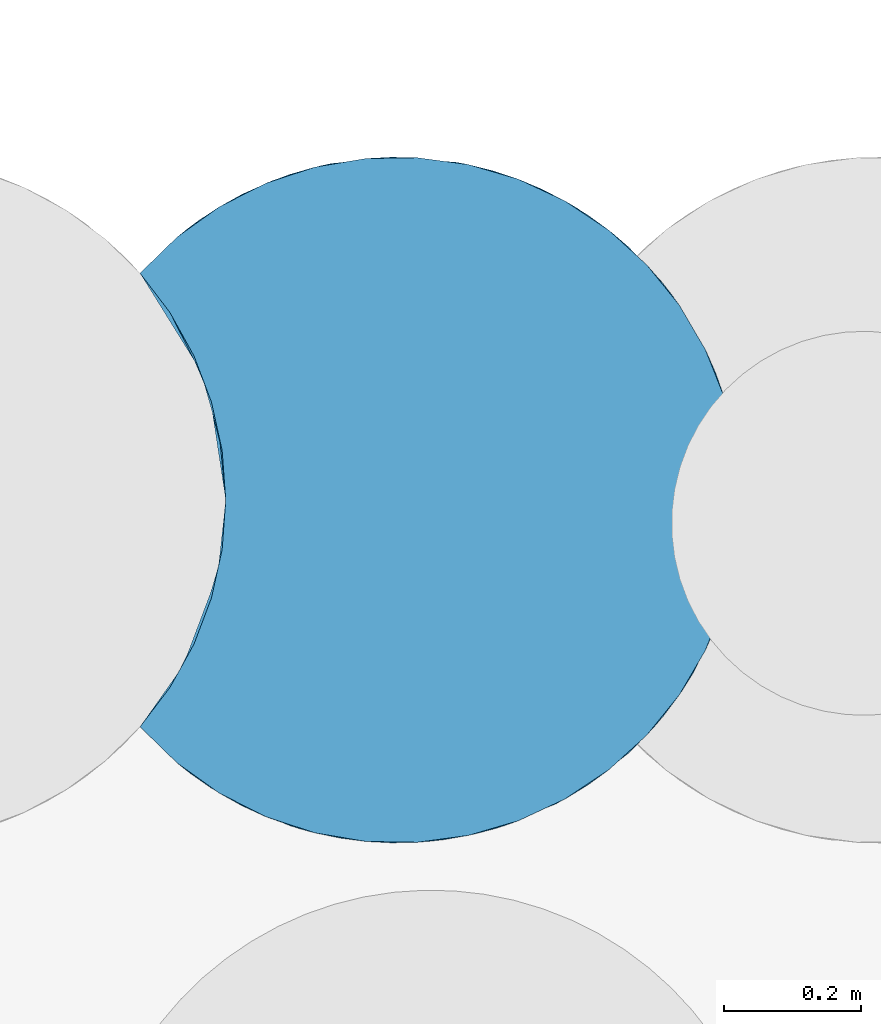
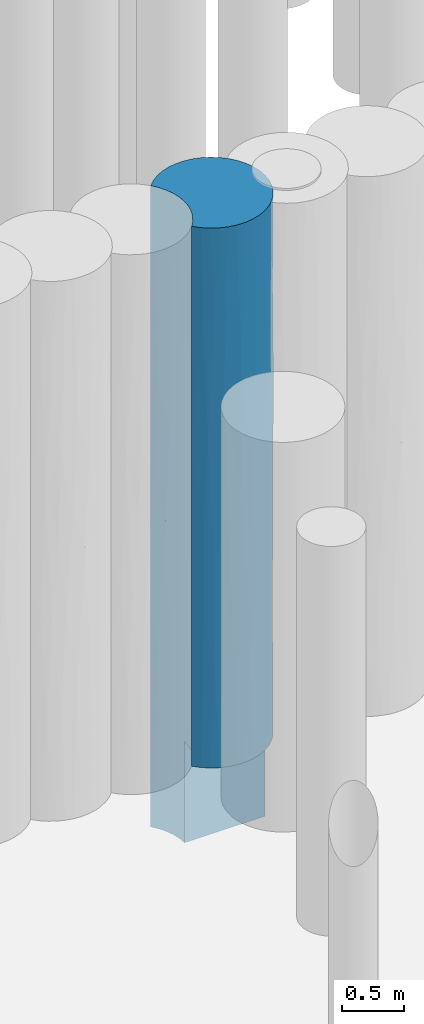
# One storey, part 85 of 104: 1 pile.
"""IFC2X3 building model written with IfcOpenShell, lengths in millimetres."""

import ifcopenshell
import ifcopenshell.guid

model = None  # the IFC model being written
_history = None  # IfcOwnerHistory: only IFC2X3 demands one
_inside = {}  # id of a spatial element -> (the spatial element, [elements in it])
_under = {}  # id of a project, library or spatial element -> (it, [spatial elements below it])
_declared = {}  # id of a project -> (the project, [libraries it declares])
_typed = {}  # id of a type object -> (the type object, [elements of that type])
_made_of = {}  # id of a material, layer set ... -> (it, [elements and type objects made of it])


def new_model(schema):
    """Start an empty IFC model of exactly this schema.

    Asked for "IFC4X3", IfcOpenShell would pick the latest addendum, in which some entities
    have other attributes; the version numbers below select the first issue.
    IFC2X3 requires an IfcOwnerHistory on every rooted entity: one is made here for all.
    """
    global model, _history
    if schema == "IFC4X3":
        model = ifcopenshell.file(schema_version=(4, 3, 0, 0))
    else:
        model = ifcopenshell.file(schema=schema)
    _inside.clear()
    _under.clear()
    _declared.clear()
    _typed.clear()
    _made_of.clear()
    _history = None
    if model.schema == "IFC2X3":
        org = make("IfcOrganization", Name="unknown")
        user = make(
            "IfcPersonAndOrganization",
            ThePerson=make("IfcPerson", FamilyName="unknown"),
            TheOrganization=org,
        )
        app = make(
            "IfcApplication",
            ApplicationDeveloper=org,
            Version="unknown",
            ApplicationFullName="unknown",
            ApplicationIdentifier="unknown",
        )
        _history = make(
            "IfcOwnerHistory",
            OwningUser=user,
            OwningApplication=app,
            ChangeAction="ADDED",
            CreationDate=0,
        )
    return model


def make(cls, **values):
    """One entity of the class cls with the attributes given. An attribute that is None is left unset."""
    return model.create_entity(
        cls, **{name: value for name, value in values.items() if value is not None}
    )


def entity(cls, *values):
    """Any entity or typed value of the class cls, its attributes in the order of the schema. None: left unset."""
    e = model.create_entity(cls)
    for i, value in enumerate(values):
        if value is not None:
            e[i] = value
    return e


def rooted(cls, **values):
    """An entity with a GlobalId (a new one), such as an element, a storey or a relation."""
    return make(cls, GlobalId=ifcopenshell.guid.new(), OwnerHistory=_history, **values)


def si_unit(unit_type, name, prefix=None):
    """IfcSIUnit, for example si_unit("LENGTHUNIT", "METRE", prefix="MILLI")."""
    return make("IfcSIUnit", UnitType=unit_type, Prefix=prefix, Name=name)


def converted_unit(unit_type, name, factor, base, dimensions=None, offset=None):
    """IfcConversionBasedUnit, such as the inch: factor (a typed value) times the base unit."""
    return make(
        "IfcConversionBasedUnit"
        if offset is None
        else "IfcConversionBasedUnitWithOffset",
        ConversionOffset=offset,
        Dimensions=None
        if dimensions is None
        else entity("IfcDimensionalExponents", *dimensions),
        UnitType=unit_type,
        Name=name,
        ConversionFactor=make(
            "IfcMeasureWithUnit", ValueComponent=factor, UnitComponent=base
        ),
    )


def derived_unit(unit_type, elements):
    """IfcDerivedUnit: a product of units, each with its exponent."""
    return make(
        "IfcDerivedUnit",
        Elements=[
            make("IfcDerivedUnitElement", Unit=unit, Exponent=power)
            for unit, power in elements
        ],
        UnitType=unit_type,
    )


def assignment(units):
    """IfcUnitAssignment: the units of a project."""
    return None if units is None else make("IfcUnitAssignment", Units=units)


def point(xyz):
    """IfcCartesianPoint."""
    return None if xyz is None else make("IfcCartesianPoint", Coordinates=xyz)


def direction(xyz):
    """IfcDirection."""
    return None if xyz is None else make("IfcDirection", DirectionRatios=xyz)


def frame(location, z_axis=None, x_axis=None):
    """IfcAxis2Placement3D, a coordinate frame: its origin and axes. An axis left out is left unset."""
    return make(
        "IfcAxis2Placement3D",
        Location=point(location),
        Axis=direction(z_axis),
        RefDirection=direction(x_axis),
    )


def origin():
    """The frame at (0, 0, 0) with its axes left unset."""
    return frame((0.0, 0.0, 0.0))


def place(relative_to, where):
    """IfcLocalPlacement: puts the frame where relative to a parent placement (None: the world)."""
    return make(
        "IfcLocalPlacement", PlacementRelTo=relative_to, RelativePlacement=where
    )


def context(
    kind, dimensions, precision=None, world=None, true_north=None, identifier=None
):
    """IfcGeometricRepresentationContext, for example the 3D "Model" context."""
    return make(
        "IfcGeometricRepresentationContext",
        ContextIdentifier=identifier,
        ContextType=kind,
        CoordinateSpaceDimension=dimensions,
        Precision=precision,
        WorldCoordinateSystem=world,
        TrueNorth=true_north,
    )


def subcontext(parent, identifier, kind, view, scale=None):
    """IfcGeometricRepresentationSubContext, for example "Body" below "Model"."""
    return make(
        "IfcGeometricRepresentationSubContext",
        ContextIdentifier=identifier,
        ContextType=kind,
        ParentContext=parent,
        TargetScale=scale,
        TargetView=view,
    )


def project(units=None, contexts=None):
    """IfcProject with its units and contexts."""
    return rooted(
        "IfcProject",
        Name="project",
        RepresentationContexts=contexts,
        UnitsInContext=assignment(units),
    )


def spatial(cls, under=None, at=None, **own):
    """A site, building, storey or space (cls), placed at a placement, below another one or the project."""
    s = rooted(cls, ObjectPlacement=at, **own)
    if under is not None:
        _under.setdefault(under.id(), (under, []))[1].append(s)
    return s


def faces_of(points, faces, orient=None, outer=None):
    """IfcFace entities. A face is a list of loops; a loop is a list of indices into points, from 0.

    orient and outer hold one flag for each loop. By default every Orientation is true, the
    first loop of a face is its IfcFaceOuterBound and the others are IfcFaceBound.
    """
    made = []
    for i, loops in enumerate(faces):
        bounds = []
        for j, loop in enumerate(loops):
            is_outer = j == 0 if outer is None else outer[i][j]
            bounds.append(
                make(
                    "IfcFaceOuterBound" if is_outer else "IfcFaceBound",
                    Bound=make("IfcPolyLoop", Polygon=[points[k] for k in loop]),
                    Orientation=True if orient is None else orient[i][j],
                )
            )
        made.append(make("IfcFace", Bounds=bounds))
    return made


def faceted_brep(points, faces, orient=None, outer=None, voids=None):
    """IfcFacetedBrep: a solid bounded by flat faces; with voids (closed shells), ...WithVoids."""
    shared = [point(p) for p in points]
    hull = make("IfcClosedShell", CfsFaces=faces_of(shared, faces, orient, outer))
    if voids is None:
        return make("IfcFacetedBrep", Outer=hull)
    return make(
        "IfcFacetedBrepWithVoids",
        Outer=hull,
        Voids=[
            make(cls, CfsFaces=faces_of(shared, fs, o, b)) for cls, fs, o, b in voids
        ],
    )


def shape(context_of_items, identifier, shape_type, items):
    """IfcShapeRepresentation: the items that make up one representation, for example the "Body"."""
    return make(
        "IfcShapeRepresentation",
        ContextOfItems=context_of_items,
        RepresentationIdentifier=identifier,
        RepresentationType=shape_type,
        Items=items,
    )


def source(mapping_origin, context_of_items, identifier, shape_type, items):
    """IfcRepresentationMap: a shape defined once, which mapped items show again and again."""
    return make(
        "IfcRepresentationMap",
        MappingOrigin=mapping_origin,
        MappedRepresentation=shape(context_of_items, identifier, shape_type, items),
    )


def transform(
    local_origin,
    x_axis=None,
    y_axis=None,
    z_axis=None,
    scale=None,
    scale2=None,
    scale3=None,
    uniform=True,
):
    """IfcCartesianTransformationOperator3D, or its non-uniform kind. x_axis, y_axis, z_axis: its Axis1, 2, 3."""
    if uniform:
        return make(
            "IfcCartesianTransformationOperator3D",
            Axis1=direction(x_axis),
            Axis2=direction(y_axis),
            LocalOrigin=point(local_origin),
            Scale=scale,
            Axis3=direction(z_axis),
        )
    return make(
        "IfcCartesianTransformationOperator3DnonUniform",
        Axis1=direction(x_axis),
        Axis2=direction(y_axis),
        LocalOrigin=point(local_origin),
        Scale=scale,
        Axis3=direction(z_axis),
        Scale2=scale2,
        Scale3=scale3,
    )


def mapped(mapping_source, mapping_target):
    """IfcMappedItem: shows the shape of a source again, moved by a transform."""
    return make(
        "IfcMappedItem", MappingSource=mapping_source, MappingTarget=mapping_target
    )


def material(Name=None, Category=None):
    """IfcMaterial."""
    return make("IfcMaterial", Name=Name, Category=Category)


def made_of(thing, what):
    """Note that an element or type object is made of a material, layer set ...; save() writes the relation."""
    if what is not None:
        _made_of.setdefault(what.id(), (what, []))[1].append(thing)
    return thing


def element(
    cls,
    number,
    at=None,
    inside=None,
    cuts=None,
    type_object=None,
    material=None,
    context=None,
    identifier="Body",
    shape_type=None,
    held_by="IfcProductDefinitionShape",
    body=None,
    shapes=None,
    **own,
):
    """One element of the class cls, such as IfcWall. Its Tag is "e" and its number.

    at: its placement. inside: the storey or other place that contains it. cuts: it is an
    opening in that element (IfcRelVoidsElement). A single representation is given by context,
    identifier, shape_type and body (its items); several are given by shapes. held_by: the class
    of the entity that holds the representations. save() writes the other relations.
    """
    e = rooted(cls, Tag="e%d" % number, ObjectPlacement=at, **own)
    if body is not None:
        shapes = [shape(context, identifier, shape_type, body)]
    if shapes is not None:
        e.Representation = make(held_by, Representations=shapes)
    if inside is not None:
        _inside.setdefault(inside.id(), (inside, []))[1].append(e)
    if cuts is not None:
        rooted(
            "IfcRelVoidsElement", RelatingBuildingElement=cuts, RelatedOpeningElement=e
        )
    if type_object is not None:
        _typed.setdefault(type_object.id(), (type_object, []))[1].append(e)
    return made_of(e, material)


def aggregate(whole, parts):
    """IfcRelAggregates: a whole, such as a stair, and the parts it consists of."""
    return rooted("IfcRelAggregates", RelatingObject=whole, RelatedObjects=parts)


def save(model, path):
    """Write the relations noted so far, then the file.

    IfcRelAggregates (storeys below a building ...), IfcRelContainedInSpatialStructure (elements
    in a storey), IfcRelDefinesByType, IfcRelAssociatesMaterial and IfcRelDeclares: one each for
    every whole, place, type object, material and project.
    """
    for whole, parts in _under.values():
        aggregate(whole, parts)
    for where, things in _inside.values():
        rooted(
            "IfcRelContainedInSpatialStructure",
            RelatedElements=things,
            RelatingStructure=where,
        )
    for kind, things in _typed.values():
        rooted("IfcRelDefinesByType", RelatedObjects=things, RelatingType=kind)
    for what, things in _made_of.values():
        rooted("IfcRelAssociatesMaterial", RelatedObjects=things, RelatingMaterial=what)
    for by, libraries in _declared.values():
        rooted("IfcRelDeclares", RelatingContext=by, RelatedDefinitions=libraries)
    model.write(path)


model = new_model("IFC2X3")

# Units and contexts
model_context = context("Model", 3, precision=0.01, world=origin(), true_north=direction((6.12303176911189e-17, 1.0)))
body_context = subcontext(model_context, "Body", "Model", "MODEL_VIEW")
ifc_project = project(units=[si_unit("LENGTHUNIT", "METRE", prefix="MILLI"), si_unit("AREAUNIT", "SQUARE_METRE", prefix="MILLI"), si_unit("VOLUMEUNIT", "CUBIC_METRE"), converted_unit("PLANEANGLEUNIT", "DEGREE", entity("IfcRatioMeasure", 0.0174532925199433), si_unit("PLANEANGLEUNIT", "RADIAN"), dimensions=[0, 0, 0, 0, 0, 0, 0]), si_unit("MASSUNIT", "GRAM", prefix="KILO"), derived_unit("MASSDENSITYUNIT", [(si_unit("MASSUNIT", "GRAM", prefix="KILO"), 1), (si_unit("LENGTHUNIT", "METRE"), -3)]), derived_unit("MOMENTOFINERTIAUNIT", [(si_unit("LENGTHUNIT", "METRE"), 4)]), si_unit("TIMEUNIT", "SECOND"), si_unit("FREQUENCYUNIT", "HERTZ"), si_unit("THERMODYNAMICTEMPERATUREUNIT", "DEGREE_CELSIUS"), derived_unit("THERMALTRANSMITTANCEUNIT", [(si_unit("MASSUNIT", "GRAM", prefix="KILO"), 1), (si_unit("THERMODYNAMICTEMPERATUREUNIT", "KELVIN"), -1), (si_unit("TIMEUNIT", "SECOND"), -3)]), derived_unit("VOLUMETRICFLOWRATEUNIT", [(si_unit("LENGTHUNIT", "METRE"), 3), (si_unit("TIMEUNIT", "SECOND"), -1)]), si_unit("ELECTRICCURRENTUNIT", "AMPERE"), si_unit("ELECTRICVOLTAGEUNIT", "VOLT"), si_unit("POWERUNIT", "WATT"), si_unit("FORCEUNIT", "NEWTON", prefix="KILO"), si_unit("ILLUMINANCEUNIT", "LUX"), si_unit("LUMINOUSFLUXUNIT", "LUMEN"), si_unit("LUMINOUSINTENSITYUNIT", "CANDELA"), derived_unit("USERDEFINED", [(si_unit("MASSUNIT", "GRAM", prefix="KILO"), -1), (si_unit("LENGTHUNIT", "METRE"), -2), (si_unit("TIMEUNIT", "SECOND"), 3), (si_unit("LUMINOUSFLUXUNIT", "LUMEN"), 1)]), derived_unit("LINEARVELOCITYUNIT", [(si_unit("LENGTHUNIT", "METRE"), 1), (si_unit("TIMEUNIT", "SECOND"), -1)]), si_unit("PRESSUREUNIT", "PASCAL"), derived_unit("USERDEFINED", [(si_unit("LENGTHUNIT", "METRE"), -2), (si_unit("MASSUNIT", "GRAM", prefix="KILO"), 1), (si_unit("TIMEUNIT", "SECOND"), -2)]), derived_unit("LINEARFORCEUNIT", [(si_unit("MASSUNIT", "GRAM", prefix="KILO"), 1), (si_unit("LENGTHUNIT", "METRE"), 1), (si_unit("TIMEUNIT", "SECOND"), -2), (si_unit("LENGTHUNIT", "METRE"), -1)]), derived_unit("PLANARFORCEUNIT", [(si_unit("MASSUNIT", "GRAM", prefix="KILO"), 1), (si_unit("LENGTHUNIT", "METRE"), 1), (si_unit("TIMEUNIT", "SECOND"), -2), (si_unit("LENGTHUNIT", "METRE"), -2)])], contexts=[model_context])

# Site, building, storey
site_placement = place(None, origin())
site = spatial("IfcSite", under=ifc_project, at=site_placement, Name="Theater aan de Parade", CompositionType="ELEMENT")
building_placement = place(site_placement, origin())
building = spatial("IfcBuilding", under=site, at=building_placement, Name="Theater aan de Parade", CompositionType="ELEMENT")
storey_placement = place(building_placement, frame((0.0, 0.0, -5520.0)))
storey = spatial("IfcBuildingStorey", under=building, at=storey_placement, Name="-2 kelder", CompositionType="ELEMENT", Elevation=-5520.0)

# Pile
ifc_material = material(Name="00_PBT_MAT_grout")
shared_shape = source(origin(), body_context, "Body", "Brep", [
    faceted_brep([(480.905919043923, 989.72379209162, 0.0), (553.359276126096, 968.437511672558, 0.0), (621.781056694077, 936.482275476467, 0.0), (684.610488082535, 894.586718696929, 0.0), (740.414269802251, 843.70620727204, 0.0), (787.919260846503, 785.001070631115, 0.0), (826.041519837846, 719.810161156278, 0.0), (853.911036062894, 649.620342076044, 0.0), (870.891488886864, 576.033245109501, 0.0), (876.595272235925, 500.725541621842, 0.0), (126.595272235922, 500.72554162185, 0.0), (121.380912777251, 572.747551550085, 0.0), (105.846592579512, 643.267366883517, 0.0), (80.3163177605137, 710.814124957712, 0.0), (45.3225844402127, 773.978973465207, 0.0), (1.59527223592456, 831.444455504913, 0.0), (55.6837113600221, 884.151897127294, 0.0), (117.086743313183, 928.107482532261, 0.0), (184.409021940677, 962.31458524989, 0.0), (256.11503470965, 985.993006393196, 0.0), (330.569297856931, 998.602644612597, 0.0), (406.073640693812, 999.855810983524, 0.0), (841.303362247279, 685.242183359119, 942.747221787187), (517.535032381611, 980.450446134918, 5289.94636722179), (653.987856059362, 916.722361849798, 5289.945341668), (588.174311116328, 953.753477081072, 4453.75859129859), (876.595272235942, 500.725541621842, 1000.0), (870.891488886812, 576.033245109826, 6320.0), (876.595272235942, 500.725541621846, 6320.0), (876.595272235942, 500.725541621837, 5539.2311470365), (876.595272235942, 500.725541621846, 4758.46227378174), (517.535032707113, 980.450446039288, 1030.05363088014), (219.814373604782, 975.50943964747, 1101.80715117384), (653.987856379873, 916.722361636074, 1030.05465501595), (219.814373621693, 975.509439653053, 5206.2249009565), (184.409021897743, 962.314585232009, 6320.0), (256.115034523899, 985.993006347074, 6320.0), (765.276677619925, 815.251796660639, 1438.21667891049), (841.303361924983, 685.242184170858, 1947.4296122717), (70.905537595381, 896.394324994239, 4517.83807802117), (90.3704069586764, 910.695450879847, 3350.61333175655), (1.59527223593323, 831.444455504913, 3123.07576524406), (866.547803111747, 600.457770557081, 2647.69338796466), (867.370891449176, 596.325183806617, 1445.08841548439), (150.101177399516, 946.483800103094, 4268.82995258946), (195.833598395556, 966.907069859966, 3146.8901370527), (841.303361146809, 685.242186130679, 4294.99936013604), (841.303361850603, 685.242184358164, 5337.28100593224), (866.044521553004, 602.899081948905, 4816.14019361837), (85.5542207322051, 907.290550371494, 957.023023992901), (406.073640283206, 999.855811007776, 6320.0), (368.297776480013, 1000.65668844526, 4759.08172252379), (330.56929754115, 998.602644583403, 6320.0), (264.894040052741, 988.088686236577, 4161.48167416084), (828.194589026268, 715.336951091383, 3121.21447914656), (866.793634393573, 599.242371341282, 3678.05093990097), (853.911036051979, 649.620342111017, 6320.0), (826.041519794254, 719.810161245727, 6320.0), (765.276677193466, 815.251797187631, 4860.79132584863), (787.919260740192, 785.001070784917, 6320.0), (555.457693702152, 967.639060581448, 3160.0), (625.314125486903, 934.475391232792, 2651.46241002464), (588.174311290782, 953.753476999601, 1866.24140477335), (876.595272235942, 500.725541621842, 3196.92454756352), (876.595272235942, 500.725541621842, 2561.5377059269), (876.595272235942, 500.725541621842, 2098.46227378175), (368.297776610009, 1000.65668844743, 1560.91827560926), (264.411442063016, 987.977825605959, 2144.89448436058), (740.414269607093, 843.706207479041, 6320.0), (475.368995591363, 990.872204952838, 2068.20848259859), (621.781056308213, 936.482275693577, 6320.0), (684.610487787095, 894.586718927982, 6320.0), (689.76899438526, 890.497551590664, 2075.3036874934), (639.027816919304, 926.318257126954, 3513.43702139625), (1.59527223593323, 831.444455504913, 1561.53528634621), (876.595272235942, 500.725541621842, 4123.07541185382), (876.595272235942, 500.725541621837, 3342.30655889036), (689.768994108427, 890.497551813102, 4244.69630426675), (150.10117715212, 946.483799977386, 2024.95032355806), (115.770273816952, 927.305335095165, 5262.62008256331), (117.086743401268, 928.107482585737, 6320.0), (480.905918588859, 989.723792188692, 6320.0), (553.359275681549, 968.437511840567, 6320.0), (66.7667754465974, 893.161909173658, 1951.92213510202), (1.59527223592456, 831.444455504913, 6320.0), (55.6837115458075, 884.151897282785, 6320.0), (1.59527223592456, 831.444455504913, 4721.53528634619), (778.556070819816, 798.093186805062, 3274.96124875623), (760.818828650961, 820.682192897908, 2413.16053086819), (475.368995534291, 990.872204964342, 4251.79151387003), (713.474342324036, 870.201511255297, 3160.0), (368.297776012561, 1000.65668843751, 3160.0), (463.460912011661, 993.122089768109, 2961.86006579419), (280.409305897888, 991.386585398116, 3341.25656632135), (1.59527223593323, 831.444455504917, 2342.30812207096), (1.5952722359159, 831.444455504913, 3922.30684365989), (117.08495382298, 73.3446873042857, 1000.0), (184.409890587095, 39.1361363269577, 1000.0), (150.100663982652, 54.9675440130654, 1982.69313674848), (368.297776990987, 0.794394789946, 5012.66563280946), (368.305901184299, 0.794260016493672, 3659.99433857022), (487.992482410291, 13.2928164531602, 3660.01121159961), (55.6798336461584, 117.30243163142, 1000.0), (77.0852624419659, 100.358517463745, 2503.81948364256), (256.118861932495, 15.4571266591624, 1000.0), (826.041519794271, 281.640921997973, 6320.0), (765.276678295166, 186.199287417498, 5376.67247074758), (841.303362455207, 316.208900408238, 5376.67054616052), (443.691820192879, 5.2479404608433, 1943.3491568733), (406.083063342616, 1.59582884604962, 1000.0), (480.917386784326, 11.729737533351, 1000.0), (713.485761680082, 131.259984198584, 3659.99076655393), (654.000489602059, 84.7371458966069, 2346.02208584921), (765.286060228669, 186.210881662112, 2398.00588768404), (150.101177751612, 54.9672829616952, 5376.65176181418), (235.516726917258, 21.0414330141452, 5489.64122101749), (184.409021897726, 39.1364980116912, 6320.0), (104.438749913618, 81.2844523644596, 4218.36025405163), (219.814373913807, 25.941643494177, 4649.93302934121), (330.576079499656, 2.84781175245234, 1000.0), (517.547167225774, 21.0042024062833, 2670.04923502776), (533.247049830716, 25.8990253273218, 1830.34066897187), (330.569297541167, 2.84843866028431, 6320.0), (256.115034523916, 15.458076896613, 6320.0), (293.109074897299, 7.74475614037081, 2398.00758253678), (553.371967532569, 33.0183682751, 1000.0), (406.073640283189, 1.5952722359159, 6320.0), (70.4585108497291, 105.402530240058, 5465.56014627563), (1.59527223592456, 170.006627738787, 2561.5355375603), (75.536369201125, 101.521913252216, 3391.66238479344), (684.610487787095, 106.864364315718, 6320.0), (653.987856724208, 84.7287218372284, 4943.3811869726), (55.6837115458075, 117.299185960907, 6320.0), (1.59527223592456, 170.006627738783, 6320.0), (1.59527223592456, 170.006627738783, 5539.24125900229), (826.047002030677, 281.652169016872, 1000.0), (853.913874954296, 351.839842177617, 1000.0), (841.307430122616, 316.219145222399, 1982.69313539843), (517.535032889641, 21.0006372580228, 4650.0061325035), (517.535032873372, 21.0006372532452, 5521.11068348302), (853.911036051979, 351.830741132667, 6320.0), (740.42483092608, 157.756079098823, 1000.0), (787.92746623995, 216.461885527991, 1000.0), (684.622701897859, 106.873916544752, 1000.0), (150.100664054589, 54.9675439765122, 3024.94583030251), (621.794008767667, 64.9760957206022, 1000.0), (791.911431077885, 222.314894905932, 3555.93607840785), (841.307430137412, 316.21914525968, 3024.94582758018), (866.045674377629, 398.557523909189, 2503.819481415), (867.67855320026, 406.719099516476, 5465.51967146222), (1.59527223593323, 170.006627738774, 1780.7688531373), (1.59527223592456, 170.006627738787, 1000.0), (870.892400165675, 425.423819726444, 1000.0), (248.800831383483, 17.3327604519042, 3570.23813677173), (866.437444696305, 400.452683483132, 3391.63556196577), (858.143812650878, 366.148414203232, 4218.27026868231), (553.359275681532, 33.0135714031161, 6320.0), (480.905918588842, 11.7272910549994, 6320.0), (419.55719372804, 2.57468766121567, 2851.89916093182), (621.781056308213, 64.9688075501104, 6320.0), (608.369842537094, 57.6899351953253, 3460.44482496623), (808.212942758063, 248.324696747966, 4650.01101896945), (740.414269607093, 157.744875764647, 6320.0), (787.919260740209, 216.450012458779, 6320.0), (117.08674340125, 73.3436006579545, 6320.0), (749.550529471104, 167.702455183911, 4468.12897444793), (870.891488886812, 425.417838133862, 6320.0), (1.5952722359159, 170.006627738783, 4123.08913068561), (1.59527223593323, 170.006627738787, 3342.31233412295), (1.59527223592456, 170.006627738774, 3196.92458745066), (1.59527223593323, 170.006627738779, 4758.46229372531), (45.3225844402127, 773.978973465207, 6320.0), (80.3163177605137, 710.814124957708, 6320.0), (105.846592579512, 643.267366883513, 6320.0), (121.380912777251, 572.747551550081, 6320.0), (126.595272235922, 500.725541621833, 6320.0), (121.380912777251, 428.703531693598, 6320.0), (105.846592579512, 358.18371636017, 6320.0), (80.3163177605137, 290.636958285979, 6320.0), (45.3225844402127, 227.472109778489, 6320.0), (126.595272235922, 500.725541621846, 1000.0), (126.595272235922, 500.725541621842, 4758.46227344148), (126.595272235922, 500.725541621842, 5539.23114702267), (103.716989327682, 650.240982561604, 929.570302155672), (117.506504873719, 595.626340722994, 2931.36424013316), (119.581500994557, 584.179590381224, 1600.9590571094), (126.595272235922, 500.725541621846, 2098.46227344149), (63.9612327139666, 743.029104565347, 1002.25156593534), (57.0342575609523, 755.131280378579, 3976.06843691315), (59.0094113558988, 751.759428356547, 4844.99935350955), (94.3024450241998, 677.502238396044, 5355.17937068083), (52.6084708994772, 762.474953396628, 1951.92213360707), (94.3024450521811, 677.502238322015, 1823.06883573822), (89.4529642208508, 689.835977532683, 3078.94407721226), (119.451546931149, 584.943666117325, 3842.56157073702), (94.3024444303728, 677.502239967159, 4334.81933337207), (116.899441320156, 598.714427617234, 4844.99935891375), (126.595272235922, 500.725541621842, 3196.92454688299), (126.595272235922, 500.725541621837, 4123.07541190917), (126.595272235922, 500.725541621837, 2561.53770595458), (114.888484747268, 393.162822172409, 5404.38906559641), (63.9612331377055, 258.421979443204, 5404.38906552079), (52.4390141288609, 238.700528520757, 2802.03581882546), (63.9612331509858, 258.421979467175, 1947.59403560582), (94.3024456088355, 323.948846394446, 2700.69910324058), (114.888484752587, 393.162822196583, 1947.59403553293), (80.3163177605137, 290.636958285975, 1000.0), (45.322584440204, 227.472109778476, 1000.0), (119.327197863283, 415.78291705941, 4541.19743988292), (86.8326465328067, 305.324519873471, 3696.32218371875), (117.80911316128, 407.403719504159, 3449.75323103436), (105.846592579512, 358.183716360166, 1000.0), (121.380912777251, 428.703531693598, 1000.0), (94.3024455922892, 323.948846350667, 4691.94526433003), (54.0384103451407, 241.31782453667, 4333.70688615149)], [[[0, 1, 2, 3, 4, 5, 6, 7, 8, 9, 10, 11, 12, 13, 14, 15, 16, 17, 18, 19, 20, 21]], [[6, 22, 7]], [[23, 24, 25]], [[9, 8, 26]], [[27, 28, 29, 30]], [[31, 2, 1]], [[22, 8, 7]], [[18, 32, 19]], [[33, 3, 2]], [[34, 35, 36]], [[22, 37, 38]], [[39, 40, 41]], [[31, 33, 2]], [[42, 43, 38]], [[44, 45, 40]], [[5, 4, 37]], [[43, 8, 22]], [[46, 47, 48]], [[49, 32, 18]], [[50, 51, 52]], [[45, 44, 53]], [[54, 46, 55]], [[56, 47, 57]], [[22, 5, 37]], [[47, 58, 59]], [[60, 61, 62]], [[42, 63, 64, 65]], [[59, 57, 47]], [[66, 32, 67]], [[24, 68, 58]], [[62, 69, 60]], [[24, 70, 71]], [[31, 1, 0]], [[62, 72, 33]], [[20, 32, 66]], [[33, 31, 62]], [[58, 68, 59]], [[66, 21, 20]], [[73, 61, 60]], [[15, 74, 49]], [[55, 30, 75, 76, 63]], [[48, 27, 30]], [[53, 34, 51]], [[52, 34, 36]], [[17, 16, 49]], [[49, 18, 17]], [[77, 25, 24]], [[67, 32, 78]], [[35, 79, 80]], [[20, 19, 32]], [[24, 23, 70]], [[50, 81, 23]], [[82, 70, 23]], [[82, 23, 81]], [[31, 69, 62]], [[4, 3, 33]], [[44, 79, 34]], [[51, 34, 52]], [[83, 49, 74]], [[84, 85, 86]], [[87, 46, 54]], [[80, 79, 85]], [[37, 72, 88]], [[79, 35, 34]], [[34, 53, 44]], [[40, 78, 83]], [[21, 66, 31]], [[4, 33, 37]], [[23, 89, 51]], [[21, 31, 0]], [[69, 31, 66]], [[68, 24, 71]], [[77, 90, 73]], [[89, 23, 25]], [[50, 23, 51]], [[47, 56, 27]], [[58, 47, 46]], [[22, 6, 5]], [[43, 22, 38]], [[88, 72, 90]], [[37, 33, 72]], [[24, 58, 77]], [[87, 77, 58]], [[66, 91, 69]], [[51, 89, 91]], [[92, 60, 69]], [[25, 77, 73]], [[25, 60, 89]], [[89, 60, 92]], [[54, 42, 38]], [[8, 43, 26]], [[42, 65, 43]], [[65, 26, 43]], [[55, 63, 42]], [[88, 38, 37]], [[54, 88, 87]], [[51, 91, 53]], [[66, 67, 91]], [[93, 45, 53]], [[83, 74, 94]], [[78, 45, 67]], [[67, 45, 93]], [[54, 55, 42]], [[55, 46, 48]], [[78, 40, 45]], [[39, 41, 95, 86]], [[40, 83, 94]], [[41, 40, 94]], [[78, 32, 49]], [[49, 16, 15]], [[78, 49, 83]], [[44, 39, 79]], [[85, 79, 86]], [[27, 48, 47]], [[55, 48, 30]], [[87, 88, 90]], [[38, 88, 54]], [[77, 87, 90]], [[46, 87, 58]], [[40, 39, 44]], [[86, 79, 39]], [[61, 90, 72]], [[25, 73, 60]], [[90, 61, 73]], [[72, 62, 61]], [[69, 91, 92]], [[89, 92, 91]], [[53, 91, 93]], [[67, 93, 91]], [[96, 97, 98]], [[99, 100, 101]], [[102, 98, 103]], [[98, 97, 104]], [[102, 96, 98]], [[105, 106, 107]], [[108, 109, 110]], [[111, 112, 113]], [[114, 115, 116]], [[114, 117, 118]], [[108, 119, 109]], [[112, 120, 121]], [[122, 123, 115]], [[108, 121, 120]], [[124, 104, 119]], [[121, 110, 125]], [[122, 99, 126]], [[118, 115, 114]], [[117, 114, 127]], [[128, 103, 129]], [[106, 130, 131]], [[132, 133, 134]], [[127, 132, 134]], [[99, 122, 115]], [[99, 118, 100]], [[135, 136, 137]], [[99, 138, 139]], [[140, 105, 107]], [[139, 126, 99]], [[141, 142, 113]], [[143, 141, 112]], [[103, 98, 144]], [[141, 113, 112]], [[124, 144, 98]], [[145, 143, 112]], [[146, 113, 147]], [[137, 113, 142]], [[137, 142, 135]], [[147, 137, 148]], [[149, 75, 30, 29]], [[98, 104, 124]], [[102, 128, 150, 151]], [[152, 26, 65, 64]], [[153, 124, 100]], [[154, 75, 155]], [[75, 149, 155]], [[139, 156, 157]], [[108, 158, 124]], [[121, 145, 112]], [[159, 139, 131]], [[139, 159, 156]], [[111, 160, 112]], [[101, 100, 158]], [[106, 161, 107]], [[162, 106, 163]], [[148, 152, 64]], [[153, 100, 118]], [[116, 164, 114]], [[105, 163, 106]], [[131, 138, 160]], [[149, 140, 107]], [[159, 131, 130]], [[161, 165, 146]], [[160, 138, 101]], [[165, 161, 106]], [[29, 28, 166]], [[137, 136, 152]], [[113, 137, 147]], [[158, 108, 120]], [[119, 108, 124]], [[130, 106, 162]], [[165, 131, 111]], [[127, 164, 132]], [[127, 167, 117]], [[107, 161, 155]], [[166, 149, 29]], [[139, 157, 126]], [[131, 139, 138]], [[129, 103, 144]], [[153, 117, 144]], [[146, 155, 161]], [[148, 154, 147]], [[101, 158, 120]], [[124, 158, 100]], [[160, 101, 120]], [[101, 138, 99]], [[112, 160, 120]], [[131, 160, 111]], [[131, 165, 106]], [[146, 165, 111]], [[113, 146, 111]], [[146, 147, 155]], [[167, 129, 117]], [[102, 103, 128]], [[129, 144, 117]], [[168, 169, 128, 129, 167]], [[152, 148, 137]], [[154, 155, 147]], [[154, 64, 63, 76, 75]], [[64, 154, 148]], [[110, 121, 108]], [[121, 125, 145]], [[99, 115, 118]], [[116, 115, 123]], [[127, 134, 170, 167]], [[164, 127, 114]], [[140, 149, 166]], [[155, 149, 107]], [[117, 153, 118]], [[124, 153, 144]], [[70, 82, 81, 50, 52, 36, 35, 80, 85, 84, 171, 172, 173, 174, 175, 176, 177, 178, 179, 133, 132, 164, 116, 123, 122, 126, 157, 156, 159, 130, 162, 163, 105, 140, 166, 28, 27, 56, 57, 59, 68, 71]], [[180, 11, 10]], [[174, 181, 182, 175]], [[13, 12, 183]], [[184, 185, 186]], [[14, 187, 15]], [[86, 188, 189]], [[190, 173, 172]], [[13, 187, 14]], [[183, 12, 11]], [[191, 192, 193]], [[194, 195, 193]], [[172, 171, 190]], [[189, 190, 171]], [[181, 174, 196]], [[183, 187, 13]], [[192, 187, 183]], [[194, 196, 195]], [[196, 190, 195]], [[197, 194, 184]], [[15, 187, 74]], [[174, 173, 190]], [[86, 171, 84]], [[195, 190, 189]], [[41, 94, 74, 191]], [[190, 196, 174]], [[194, 197, 198, 181]], [[196, 194, 181]], [[193, 184, 194]], [[195, 189, 188]], [[180, 185, 183]], [[184, 193, 192]], [[184, 186, 199, 197]], [[95, 41, 188, 86]], [[86, 189, 171]], [[188, 193, 195]], [[193, 188, 41]], [[192, 183, 185]], [[180, 183, 11]], [[192, 185, 184]], [[186, 185, 180]], [[74, 187, 191]], [[41, 191, 193]], [[192, 191, 187]], [[177, 200, 201, 178]], [[176, 175, 182]], [[150, 202, 203]], [[204, 205, 203]], [[206, 207, 203]], [[208, 200, 182]], [[201, 170, 134, 133]], [[204, 209, 210]], [[199, 205, 210]], [[177, 176, 200]], [[206, 203, 205, 211]], [[212, 205, 180]], [[179, 178, 201]], [[211, 205, 212]], [[200, 213, 201]], [[210, 208, 198]], [[205, 199, 186, 180]], [[169, 214, 202]], [[210, 198, 197, 199]], [[150, 207, 151]], [[204, 203, 202]], [[203, 207, 150]], [[179, 201, 133]], [[170, 201, 214]], [[213, 200, 208]], [[200, 176, 182]], [[208, 210, 209]], [[208, 182, 181, 198]], [[213, 208, 209]], [[205, 204, 210]], [[213, 209, 214]], [[202, 214, 209]], [[213, 214, 201]], [[214, 169, 168, 167, 170]], [[204, 202, 209]], [[202, 150, 128, 169]], [[141, 143, 145, 125, 110, 109, 119, 104, 97, 96, 102, 151, 207, 206, 211, 212, 180, 26, 152, 136, 135, 142]], [[180, 10, 9, 26]]]),
])
pile_placement = place(storey_placement, frame((77923.4047277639, 20203.2504775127, -3840.0)))
element("IfcPile", 1, at=pile_placement, inside=storey, material=ifc_material, Name="17_PBT_SFO_grondkering_rond:Ø1000 (grondkering)", ObjectType="17_PBT_SFO_grondkering_rond:Ø1000 (grondkering)", PredefinedType="NOTDEFINED", context=body_context, shape_type="MappedRepresentation", body=[
    mapped(shared_shape, transform((0.0, 0.0, 0.0), scale=1.0)),
])

save(model, "model.ifc")
